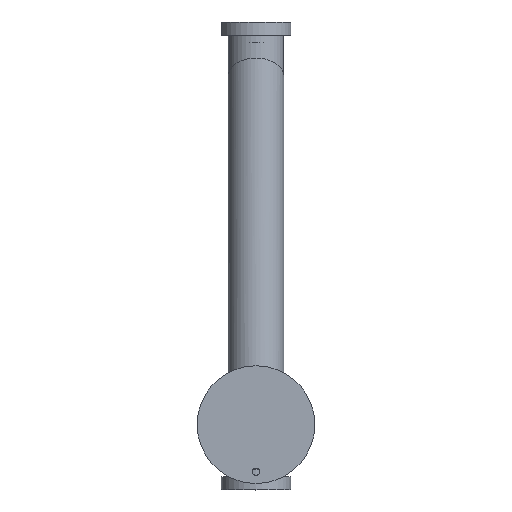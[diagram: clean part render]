
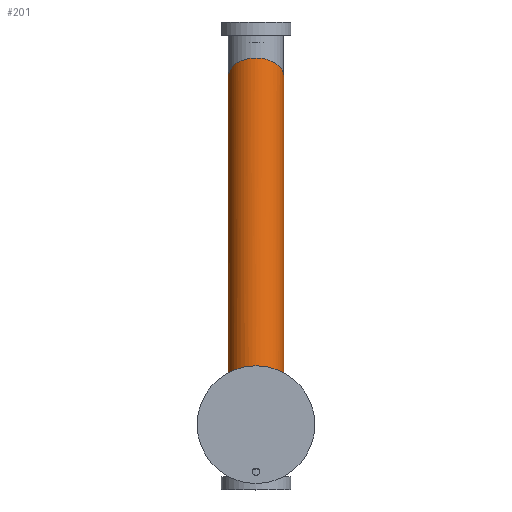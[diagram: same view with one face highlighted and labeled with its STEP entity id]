
A CAD part, top view. The second image highlights one B-rep face of the part: STEP entity #201.
In plain terms, the highlighted cylindrical face has radius 24.13 mm (diameter 48.26 mm), a partial arc.
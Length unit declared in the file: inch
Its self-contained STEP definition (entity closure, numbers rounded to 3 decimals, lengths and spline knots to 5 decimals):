
#24 = DIRECTION ( 'NONE',  ( 0., 0., -1. ) ) ;
#33 = CARTESIAN_POINT ( 'NONE',  ( 0.95, -0.5565, 31.89284 ) ) ;
#105 = ORIENTED_EDGE ( 'NONE', *, *, #1441, .T. ) ;
#155 =( BOUNDED_CURVE ( )  B_SPLINE_CURVE ( 3, ( #1835, #33, #1106, #940 ),
 .UNSPECIFIED., .F., .F. ) 
 B_SPLINE_CURVE_WITH_KNOTS ( ( 4, 4 ),
 ( 4.71239, 6.28319 ),
 .UNSPECIFIED. ) 
 CURVE ( )  GEOMETRIC_REPRESENTATION_ITEM ( )  RATIONAL_B_SPLINE_CURVE ( ( 1., 0.805, 0.805, 1. ) ) 
 REPRESENTATION_ITEM ( '' )  );
#183 = CYLINDRICAL_SURFACE ( 'NONE', #855, 0.95 ) ;
#201 = ADVANCED_FACE ( 'NONE', ( #484 ), #183, .T. ) ;
#209 = EDGE_CURVE ( 'NONE', #1135, #1045, #768, .T. ) ;
#217 = EDGE_LOOP ( 'NONE', ( #1515, #1264, #1519, #1083, #105 ) ) ;
#263 =( BOUNDED_CURVE ( )  B_SPLINE_CURVE ( 3, ( #1292, #1746, #1595, #1024 ),
 .UNSPECIFIED., .F., .F. ) 
 B_SPLINE_CURVE_WITH_KNOTS ( ( 4, 4 ),
 ( 0., 1.5708 ),
 .UNSPECIFIED. ) 
 CURVE ( )  GEOMETRIC_REPRESENTATION_ITEM ( )  RATIONAL_B_SPLINE_CURVE ( ( 1., 0.805, 0.805, 1. ) ) 
 REPRESENTATION_ITEM ( '' )  );
#267 = CARTESIAN_POINT ( 'NONE',  ( -0.95, 0., 0. ) ) ;
#346 = DIRECTION ( 'NONE',  ( 0., 0., -1. ) ) ;
#379 = CARTESIAN_POINT ( 'NONE',  ( -0.95, -1.9, 1.2864 ) ) ;
#408 =( BOUNDED_CURVE ( )  B_SPLINE_CURVE ( 3, ( #267, #379, #1689, #956 ),
 .UNSPECIFIED., .F., .F. ) 
 B_SPLINE_CURVE_WITH_KNOTS ( ( 4, 4 ),
 ( 1.5708, 4.71239 ),
 .UNSPECIFIED. ) 
 CURVE ( )  GEOMETRIC_REPRESENTATION_ITEM ( )  RATIONAL_B_SPLINE_CURVE ( ( 1., 0.333, 0.333, 1. ) ) 
 REPRESENTATION_ITEM ( '' )  );
#422 = EDGE_CURVE ( 'NONE', #1616, #969, #263, .T. ) ;
#484 = FACE_OUTER_BOUND ( 'NONE', #217, .T. ) ;
#744 = CARTESIAN_POINT ( 'NONE',  ( -0.95, 0., 32. ) ) ;
#756 = CARTESIAN_POINT ( 'NONE',  ( 0., 0., 32. ) ) ;
#768 = LINE ( 'NONE', #787, #1776 ) ;
#787 = CARTESIAN_POINT ( 'NONE',  ( 0.95, 0., 32. ) ) ;
#819 = EDGE_CURVE ( 'NONE', #969, #1040, #1753, .T. ) ;
#855 = AXIS2_PLACEMENT_3D ( 'NONE', #756, #24, #1512 ) ;
#865 = DIRECTION ( 'NONE',  ( 0., 0., -1. ) ) ;
#940 = CARTESIAN_POINT ( 'NONE',  ( 0., -0.95, 31.81706 ) ) ;
#941 = VECTOR ( 'NONE', #865, 39.37008 ) ;
#956 = CARTESIAN_POINT ( 'NONE',  ( 0.95, 0., 0. ) ) ;
#969 = VERTEX_POINT ( 'NONE', #1830 ) ;
#1010 = CARTESIAN_POINT ( 'NONE',  ( 0.95, 0., 0. ) ) ;
#1024 = CARTESIAN_POINT ( 'NONE',  ( -0.95, 0., 32. ) ) ;
#1040 = VERTEX_POINT ( 'NONE', #1168 ) ;
#1045 = VERTEX_POINT ( 'NONE', #1010 ) ;
#1083 = ORIENTED_EDGE ( 'NONE', *, *, #819, .T. ) ;
#1098 = CARTESIAN_POINT ( 'NONE',  ( 0., -0.95, 31.81706 ) ) ;
#1106 = CARTESIAN_POINT ( 'NONE',  ( 0.5565, -0.95, 31.81706 ) ) ;
#1135 = VERTEX_POINT ( 'NONE', #1316 ) ;
#1168 = CARTESIAN_POINT ( 'NONE',  ( -0.95, 0., 0. ) ) ;
#1264 = ORIENTED_EDGE ( 'NONE', *, *, #1794, .T. ) ;
#1292 = CARTESIAN_POINT ( 'NONE',  ( 0., -0.95, 31.81706 ) ) ;
#1316 = CARTESIAN_POINT ( 'NONE',  ( 0.95, 0., 32. ) ) ;
#1441 = EDGE_CURVE ( 'NONE', #1040, #1045, #408, .T. ) ;
#1512 = DIRECTION ( 'NONE',  ( -1., 0., 0. ) ) ;
#1515 = ORIENTED_EDGE ( 'NONE', *, *, #209, .F. ) ;
#1519 = ORIENTED_EDGE ( 'NONE', *, *, #422, .T. ) ;
#1595 = CARTESIAN_POINT ( 'NONE',  ( -0.95, -0.5565, 31.89284 ) ) ;
#1616 = VERTEX_POINT ( 'NONE', #1098 ) ;
#1689 = CARTESIAN_POINT ( 'NONE',  ( 0.95, -1.9, 1.2864 ) ) ;
#1746 = CARTESIAN_POINT ( 'NONE',  ( -0.5565, -0.95, 31.81706 ) ) ;
#1753 = LINE ( 'NONE', #744, #941 ) ;
#1776 = VECTOR ( 'NONE', #346, 39.37008 ) ;
#1794 = EDGE_CURVE ( 'NONE', #1135, #1616, #155, .T. ) ;
#1830 = CARTESIAN_POINT ( 'NONE',  ( -0.95, 0., 32. ) ) ;
#1835 = CARTESIAN_POINT ( 'NONE',  ( 0.95, 0., 32. ) ) ;
